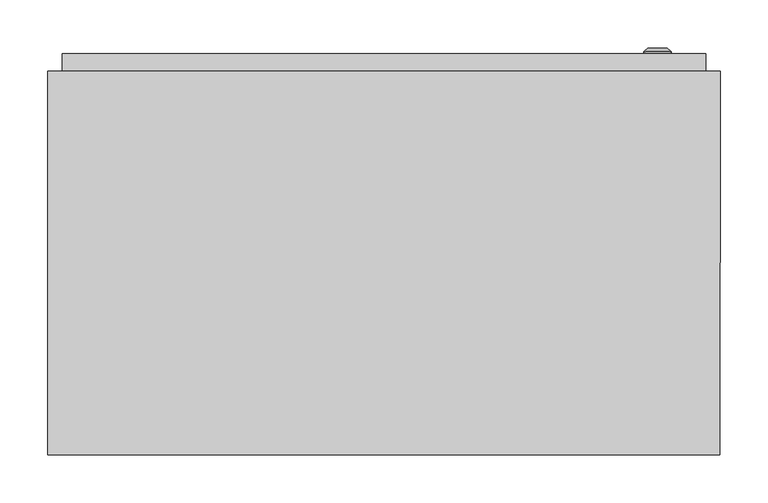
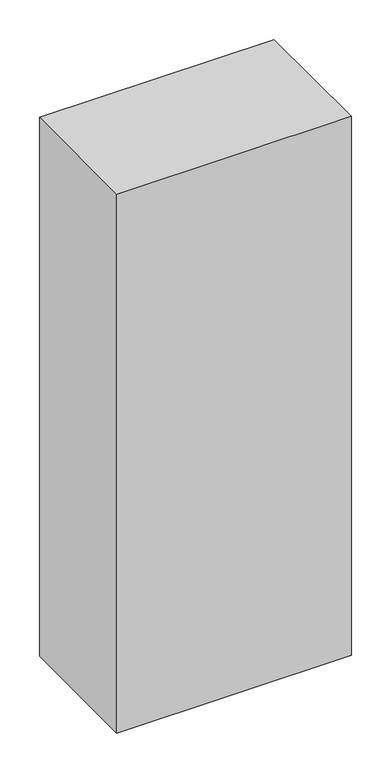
"""IFC4 building model written with IfcOpenShell, lengths in millimetres: proxy geometry, ШРС_IP54 : ШРС-3_1700х700х400_IP54."""

import ifcopenshell
import ifcopenshell.guid

model = None  # the IFC model being written
_history = None  # IfcOwnerHistory: only IFC2X3 demands one
_inside = {}  # id of a spatial element -> (the spatial element, [elements in it])
_under = {}  # id of a project, library or spatial element -> (it, [spatial elements below it])
_declared = {}  # id of a project -> (the project, [libraries it declares])
_typed = {}  # id of a type object -> (the type object, [elements of that type])
_made_of = {}  # id of a material, layer set ... -> (it, [elements and type objects made of it])


def new_model(schema):
    """Start an empty IFC model of exactly this schema.

    Asked for "IFC4X3", IfcOpenShell would pick the latest addendum, in which some entities
    have other attributes; the version numbers below select the first issue.
    IFC2X3 requires an IfcOwnerHistory on every rooted entity: one is made here for all.
    """
    global model, _history
    if schema == "IFC4X3":
        model = ifcopenshell.file(schema_version=(4, 3, 0, 0))
    else:
        model = ifcopenshell.file(schema=schema)
    _inside.clear()
    _under.clear()
    _declared.clear()
    _typed.clear()
    _made_of.clear()
    _history = None
    if model.schema == "IFC2X3":
        org = make("IfcOrganization", Name="unknown")
        user = make(
            "IfcPersonAndOrganization",
            ThePerson=make("IfcPerson", FamilyName="unknown"),
            TheOrganization=org,
        )
        app = make(
            "IfcApplication",
            ApplicationDeveloper=org,
            Version="unknown",
            ApplicationFullName="unknown",
            ApplicationIdentifier="unknown",
        )
        _history = make(
            "IfcOwnerHistory",
            OwningUser=user,
            OwningApplication=app,
            ChangeAction="ADDED",
            CreationDate=0,
        )
    return model


def make(cls, **values):
    """One entity of the class cls with the attributes given. An attribute that is None is left unset."""
    return model.create_entity(
        cls, **{name: value for name, value in values.items() if value is not None}
    )


def rooted(cls, **values):
    """An entity with a GlobalId (a new one), such as an element, a storey or a relation."""
    return make(cls, GlobalId=ifcopenshell.guid.new(), OwnerHistory=_history, **values)


def si_unit(unit_type, name, prefix=None):
    """IfcSIUnit, for example si_unit("LENGTHUNIT", "METRE", prefix="MILLI")."""
    return make("IfcSIUnit", UnitType=unit_type, Prefix=prefix, Name=name)


def assignment(units):
    """IfcUnitAssignment: the units of a project."""
    return None if units is None else make("IfcUnitAssignment", Units=units)


def point(xyz):
    """IfcCartesianPoint."""
    return None if xyz is None else make("IfcCartesianPoint", Coordinates=xyz)


def direction(xyz):
    """IfcDirection."""
    return None if xyz is None else make("IfcDirection", DirectionRatios=xyz)


def frame(location, z_axis=None, x_axis=None):
    """IfcAxis2Placement3D, a coordinate frame: its origin and axes. An axis left out is left unset."""
    return make(
        "IfcAxis2Placement3D",
        Location=point(location),
        Axis=direction(z_axis),
        RefDirection=direction(x_axis),
    )


def origin():
    """The frame at (0, 0, 0) with its axes left unset."""
    return frame((0.0, 0.0, 0.0))


def place(relative_to, where):
    """IfcLocalPlacement: puts the frame where relative to a parent placement (None: the world)."""
    return make(
        "IfcLocalPlacement", PlacementRelTo=relative_to, RelativePlacement=where
    )


def context(
    kind, dimensions, precision=None, world=None, true_north=None, identifier=None
):
    """IfcGeometricRepresentationContext, for example the 3D "Model" context."""
    return make(
        "IfcGeometricRepresentationContext",
        ContextIdentifier=identifier,
        ContextType=kind,
        CoordinateSpaceDimension=dimensions,
        Precision=precision,
        WorldCoordinateSystem=world,
        TrueNorth=true_north,
    )


def project(units=None, contexts=None):
    """IfcProject with its units and contexts."""
    return rooted(
        "IfcProject",
        Name="project",
        RepresentationContexts=contexts,
        UnitsInContext=assignment(units),
    )


def spatial(cls, under=None, at=None, **own):
    """A site, building, storey or space (cls), placed at a placement, below another one or the project."""
    s = rooted(cls, ObjectPlacement=at, **own)
    if under is not None:
        _under.setdefault(under.id(), (under, []))[1].append(s)
    return s


def polyline(points):
    """IfcPolyline through the points."""
    return make("IfcPolyline", Points=[point(p) for p in points])


def circle_curve(where, radius):
    """IfcCircle in the frame where."""
    return make("IfcCircle", Position=where, Radius=radius)


def outline(outer, holes=None, kind="AREA"):
    """IfcArbitraryClosedProfileDef: a profile drawn as a closed curve; with holes, ...WithVoids."""
    if holes is None:
        return make("IfcArbitraryClosedProfileDef", ProfileType=kind, OuterCurve=outer)
    return make(
        "IfcArbitraryProfileDefWithVoids",
        ProfileType=kind,
        OuterCurve=outer,
        InnerCurves=holes,
    )


def extrude(swept, where, along, depth):
    """IfcExtrudedAreaSolid: the profile swept, set in the frame where, extruded along a direction by depth."""
    return make(
        "IfcExtrudedAreaSolid",
        SweptArea=swept,
        Position=where,
        ExtrudedDirection=direction(along),
        Depth=depth,
    )


def faces_of(points, faces, orient=None, outer=None):
    """IfcFace entities. A face is a list of loops; a loop is a list of indices into points, from 0.

    orient and outer hold one flag for each loop. By default every Orientation is true, the
    first loop of a face is its IfcFaceOuterBound and the others are IfcFaceBound.
    """
    made = []
    for i, loops in enumerate(faces):
        bounds = []
        for j, loop in enumerate(loops):
            is_outer = j == 0 if outer is None else outer[i][j]
            bounds.append(
                make(
                    "IfcFaceOuterBound" if is_outer else "IfcFaceBound",
                    Bound=make("IfcPolyLoop", Polygon=[points[k] for k in loop]),
                    Orientation=True if orient is None else orient[i][j],
                )
            )
        made.append(make("IfcFace", Bounds=bounds))
    return made


def faceted_brep(points, faces, orient=None, outer=None, voids=None):
    """IfcFacetedBrep: a solid bounded by flat faces; with voids (closed shells), ...WithVoids."""
    shared = [point(p) for p in points]
    hull = make("IfcClosedShell", CfsFaces=faces_of(shared, faces, orient, outer))
    if voids is None:
        return make("IfcFacetedBrep", Outer=hull)
    return make(
        "IfcFacetedBrepWithVoids",
        Outer=hull,
        Voids=[
            make(cls, CfsFaces=faces_of(shared, fs, o, b)) for cls, fs, o, b in voids
        ],
    )


def shape(context_of_items, identifier, shape_type, items):
    """IfcShapeRepresentation: the items that make up one representation, for example the "Body"."""
    return make(
        "IfcShapeRepresentation",
        ContextOfItems=context_of_items,
        RepresentationIdentifier=identifier,
        RepresentationType=shape_type,
        Items=items,
    )


def source(mapping_origin, context_of_items, identifier, shape_type, items):
    """IfcRepresentationMap: a shape defined once, which mapped items show again and again."""
    return make(
        "IfcRepresentationMap",
        MappingOrigin=mapping_origin,
        MappedRepresentation=shape(context_of_items, identifier, shape_type, items),
    )


def transform(
    local_origin,
    x_axis=None,
    y_axis=None,
    z_axis=None,
    scale=None,
    scale2=None,
    scale3=None,
    uniform=True,
):
    """IfcCartesianTransformationOperator3D, or its non-uniform kind. x_axis, y_axis, z_axis: its Axis1, 2, 3."""
    if uniform:
        return make(
            "IfcCartesianTransformationOperator3D",
            Axis1=direction(x_axis),
            Axis2=direction(y_axis),
            LocalOrigin=point(local_origin),
            Scale=scale,
            Axis3=direction(z_axis),
        )
    return make(
        "IfcCartesianTransformationOperator3DnonUniform",
        Axis1=direction(x_axis),
        Axis2=direction(y_axis),
        LocalOrigin=point(local_origin),
        Scale=scale,
        Axis3=direction(z_axis),
        Scale2=scale2,
        Scale3=scale3,
    )


def mapped(mapping_source, mapping_target):
    """IfcMappedItem: shows the shape of a source again, moved by a transform."""
    return make(
        "IfcMappedItem", MappingSource=mapping_source, MappingTarget=mapping_target
    )


def made_of(thing, what):
    """Note that an element or type object is made of a material, layer set ...; save() writes the relation."""
    if what is not None:
        _made_of.setdefault(what.id(), (what, []))[1].append(thing)
    return thing


def element(
    cls,
    number,
    at=None,
    inside=None,
    cuts=None,
    type_object=None,
    material=None,
    context=None,
    identifier="Body",
    shape_type=None,
    held_by="IfcProductDefinitionShape",
    body=None,
    shapes=None,
    **own,
):
    """One element of the class cls, such as IfcWall. Its Tag is "e" and its number.

    at: its placement. inside: the storey or other place that contains it. cuts: it is an
    opening in that element (IfcRelVoidsElement). A single representation is given by context,
    identifier, shape_type and body (its items); several are given by shapes. held_by: the class
    of the entity that holds the representations. save() writes the other relations.
    """
    e = rooted(cls, Tag="e%d" % number, ObjectPlacement=at, **own)
    if body is not None:
        shapes = [shape(context, identifier, shape_type, body)]
    if shapes is not None:
        e.Representation = make(held_by, Representations=shapes)
    if inside is not None:
        _inside.setdefault(inside.id(), (inside, []))[1].append(e)
    if cuts is not None:
        rooted(
            "IfcRelVoidsElement", RelatingBuildingElement=cuts, RelatedOpeningElement=e
        )
    if type_object is not None:
        _typed.setdefault(type_object.id(), (type_object, []))[1].append(e)
    return made_of(e, material)


def aggregate(whole, parts):
    """IfcRelAggregates: a whole, such as a stair, and the parts it consists of."""
    return rooted("IfcRelAggregates", RelatingObject=whole, RelatedObjects=parts)


def save(model, path):
    """Write the relations noted so far, then the file.

    IfcRelAggregates (storeys below a building ...), IfcRelContainedInSpatialStructure (elements
    in a storey), IfcRelDefinesByType, IfcRelAssociatesMaterial and IfcRelDeclares: one each for
    every whole, place, type object, material and project.
    """
    for whole, parts in _under.values():
        aggregate(whole, parts)
    for where, things in _inside.values():
        rooted(
            "IfcRelContainedInSpatialStructure",
            RelatedElements=things,
            RelatingStructure=where,
        )
    for kind, things in _typed.values():
        rooted("IfcRelDefinesByType", RelatedObjects=things, RelatingType=kind)
    for what, things in _made_of.values():
        rooted("IfcRelAssociatesMaterial", RelatedObjects=things, RelatingMaterial=what)
    for by, libraries in _declared.values():
        rooted("IfcRelDeclares", RelatingContext=by, RelatedDefinitions=libraries)
    model.write(path)


def plane_surface(at):
    """IfcPlane: the flat surface through the origin of the frame at, square to its z axis."""
    return make("IfcPlane", Position=at)


def cylinder_surface(at, radius):
    """IfcCylindricalSurface: all points at the distance radius from the z axis of the frame at."""
    return make("IfcCylindricalSurface", Position=at, Radius=radius)


def revolved_surface(curve, axis_point, axis_direction):
    """IfcSurfaceOfRevolution: the curve turned about the line through axis_point along axis_direction."""
    return make(
        "IfcSurfaceOfRevolution",
        SweptCurve=make("IfcArbitraryOpenProfileDef", ProfileType="CURVE", Curve=curve),
        AxisPosition=make("IfcAxis1Placement", Location=point(axis_point), Axis=direction(axis_direction)),
    )


def advanced_brep(points, edges, surfaces, faces):
    """IfcAdvancedBrep: a solid bounded by faces that lie on surfaces and meet in shared edges.

    An edge is (start, end): straight between two places in points (the first is 0);
    or (start, end, curve); or (start, end, curve, False) where it runs against its curve.
    A face is (place in surfaces, loops), or (place, loops, False) where it looks against
    its surface's normal. A loop lists edges by number (the first is 1), with a minus sign
    where the edge is run from its end to its start. The first loop is the outer one.
    """
    corners = [point(p) for p in points]
    vertices = [make("IfcVertexPoint", VertexGeometry=c) for c in corners]
    made = []
    for start, end, *more in edges:
        made.append(
            make(
                "IfcEdgeCurve",
                EdgeStart=vertices[start],
                EdgeEnd=vertices[end],
                EdgeGeometry=more[0] if more else make("IfcPolyline", Points=[corners[start], corners[end]]),
                SameSense=more[1] if len(more) > 1 else True,
            )
        )
    hull = []
    for where, loops, *sense in faces:
        bounds = []
        for j, loop in enumerate(loops):
            ring = [make("IfcOrientedEdge", EdgeElement=made[abs(k) - 1], Orientation=k > 0) for k in loop]
            bounds.append(
                make(
                    "IfcFaceOuterBound" if j == 0 else "IfcFaceBound",
                    Bound=make("IfcEdgeLoop", EdgeList=ring),
                    Orientation=True,
                )
            )
        hull.append(make("IfcAdvancedFace", Bounds=bounds, FaceSurface=surfaces[where], SameSense=sense[0] if sense else True))
    return make("IfcAdvancedBrep", Outer=make("IfcClosedShell", CfsFaces=hull))


def electrical_equipment_bb6dac78(model_context):
    return source(origin(), model_context, "Body", "SolidModel", [
        advanced_brep(
        [(270.669873, 418.0, 320.0), (299.330127, 418.0, 320.0), (285.0, 418.0, 320.0), (270.669873, 420.366592, 320.0), (299.330127, 420.366592, 320.0), (275.0, 424.0, 320.0), (295.0, 424.0, 320.0), (283.1080471, 424.0, 320.0), (286.8919529, 424.0, 320.0), (283.1080471, 422.9822294, 320.0), (286.8919529, 422.9822294, 320.0), (285.0, 422.9822294, 320.0)],
        [
            (0, 1, circle_curve(frame((285.0, 418.0, 320.0), z_axis=(0.0, -1.0, 0.0), x_axis=(1.0, 0.0, 0.0)), 14.330127)),
            (1, 2),
            (2, 0),
            (1, 0, circle_curve(frame((285.0, 418.0, 320.0), z_axis=(0.0, -1.0, 0.0), x_axis=(1.0, 0.0, 0.0)), 14.330127)),
            (3, 4, circle_curve(frame((285.0, 420.366592, 320.0), z_axis=(0.0, -1.0, 0.0), x_axis=(1.0, 0.0, 0.0)), 14.330127)),
            (4, 1),
            (0, 3),
            (4, 3, circle_curve(frame((285.0, 420.366592, 320.0), z_axis=(0.0, -1.0, 0.0), x_axis=(1.0, 0.0, 0.0)), 14.330127)),
            (5, 6, circle_curve(frame((285.0, 424.0, 320.0), z_axis=(0.0, -1.0, 0.0), x_axis=(1.0, 0.0, 0.0)), 10.0)),
            (6, 4),
            (3, 5),
            (6, 5, circle_curve(frame((285.0, 424.0, 320.0), z_axis=(0.0, -1.0, 0.0), x_axis=(1.0, 0.0, 0.0)), 10.0)),
            (7, 8, circle_curve(frame((285.0, 424.0, 320.0), z_axis=(0.0, -1.0, 0.0), x_axis=(1.0, 0.0, 0.0)), 1.8919529)),
            (8, 6),
            (5, 7),
            (8, 7, circle_curve(frame((285.0, 424.0, 320.0), z_axis=(0.0, -1.0, 0.0), x_axis=(1.0, 0.0, 0.0)), 1.8919529)),
            (9, 10, circle_curve(frame((285.0, 422.9822294, 320.0), z_axis=(0.0, -1.0, 0.0), x_axis=(1.0, 0.0, 0.0)), 1.8919529)),
            (10, 8),
            (7, 9),
            (10, 9, circle_curve(frame((285.0, 422.9822294, 320.0), z_axis=(0.0, -1.0, 0.0), x_axis=(1.0, 0.0, 0.0)), 1.8919529)),
            (11, 10),
            (9, 11),
        ],
        [
            plane_surface(frame((285.0, 418.0, 320.0), z_axis=(0.0, -1.0, 0.0), x_axis=(1.0, 0.0, 0.0))),
            cylinder_surface(frame((285.0, 431.1348851, 320.0), z_axis=(0.0, 1.0, 0.0), x_axis=(1.0, 0.0, 0.0)), 14.330127),
            revolved_surface(polyline([(299.330127, 420.366592, 320.0), (295.0, 424.0, 320.0)]), (285.0, 431.1348851, 320.0), (0.0, 1.0, 0.0)),
            plane_surface(frame((285.0, 424.0, 320.0), z_axis=(0.0, 1.0, 0.0), x_axis=(1.0, 0.0, 0.0))),
            revolved_surface(polyline([(286.8919529, 424.0, 320.0), (286.8919529, 422.9822294, 320.0)]), (285.0, 431.1348851, 320.0), (0.0, 1.0, 0.0)),
            plane_surface(frame((285.0, 422.9822294, 320.0), z_axis=(0.0, 1.0, 0.0), x_axis=(1.0, 0.0, 0.0))),
        ],
        [
            (0, [[1, 2, 3]]),
            (0, [[4, -3, -2]]),
            (1, [[5, 6, -1, 7]]),
            (1, [[8, -7, -4, -6]]),
            (2, [[9, 10, -5, 11]]),
            (2, [[12, -11, -8, -10]]),
            (3, [[13, 14, -9, 15]]),
            (3, [[16, -15, -12, -14]]),
            (4, [[17, 18, -13, 19]]),
            (4, [[20, -19, -16, -18]]),
            (5, [[21, -17, 22]]),
            (5, [[-22, -20, -21]]),
        ],
    ),
        advanced_brep(
        [(270.669873, 418.0, 1285.0), (299.330127, 418.0, 1285.0), (285.0, 418.0, 1285.0), (270.669873, 420.366592, 1285.0), (299.330127, 420.366592, 1285.0), (275.0, 424.0, 1285.0), (295.0, 424.0, 1285.0), (283.1080471, 424.0, 1285.0), (286.8919529, 424.0, 1285.0), (283.1080471, 422.9822294, 1285.0), (286.8919529, 422.9822294, 1285.0), (285.0, 422.9822294, 1285.0)],
        [
            (0, 1, circle_curve(frame((285.0, 418.0, 1285.0), z_axis=(0.0, -1.0, 0.0), x_axis=(1.0, 0.0, 0.0)), 14.330127)),
            (1, 2),
            (2, 0),
            (1, 0, circle_curve(frame((285.0, 418.0, 1285.0), z_axis=(0.0, -1.0, 0.0), x_axis=(1.0, 0.0, 0.0)), 14.330127)),
            (3, 4, circle_curve(frame((285.0, 420.366592, 1285.0), z_axis=(0.0, -1.0, 0.0), x_axis=(1.0, 0.0, 0.0)), 14.330127)),
            (4, 1),
            (0, 3),
            (4, 3, circle_curve(frame((285.0, 420.366592, 1285.0), z_axis=(0.0, -1.0, 0.0), x_axis=(1.0, 0.0, 0.0)), 14.330127)),
            (5, 6, circle_curve(frame((285.0, 424.0, 1285.0), z_axis=(0.0, -1.0, 0.0), x_axis=(1.0, 0.0, 0.0)), 10.0)),
            (6, 4),
            (3, 5),
            (6, 5, circle_curve(frame((285.0, 424.0, 1285.0), z_axis=(0.0, -1.0, 0.0), x_axis=(1.0, 0.0, 0.0)), 10.0)),
            (7, 8, circle_curve(frame((285.0, 424.0, 1285.0), z_axis=(0.0, -1.0, 0.0), x_axis=(1.0, 0.0, 0.0)), 1.8919529)),
            (8, 6),
            (5, 7),
            (8, 7, circle_curve(frame((285.0, 424.0, 1285.0), z_axis=(0.0, -1.0, 0.0), x_axis=(1.0, 0.0, 0.0)), 1.8919529)),
            (9, 10, circle_curve(frame((285.0, 422.9822294, 1285.0), z_axis=(0.0, -1.0, 0.0), x_axis=(1.0, 0.0, 0.0)), 1.8919529)),
            (10, 8),
            (7, 9),
            (10, 9, circle_curve(frame((285.0, 422.9822294, 1285.0), z_axis=(0.0, -1.0, 0.0), x_axis=(1.0, 0.0, 0.0)), 1.8919529)),
            (11, 10),
            (9, 11),
        ],
        [
            plane_surface(frame((285.0, 418.0, 1285.0), z_axis=(0.0, -1.0, 0.0), x_axis=(1.0, 0.0, 0.0))),
            cylinder_surface(frame((285.0, 431.1348851, 1285.0), z_axis=(0.0, 1.0, 0.0), x_axis=(1.0, 0.0, 0.0)), 14.330127),
            revolved_surface(polyline([(299.330127, 420.366592, 1285.0), (295.0, 424.0, 1285.0)]), (285.0, 431.1348851, 1285.0), (0.0, 1.0, 0.0)),
            plane_surface(frame((285.0, 424.0, 1285.0), z_axis=(0.0, 1.0, 0.0), x_axis=(1.0, 0.0, 0.0))),
            revolved_surface(polyline([(286.8919529, 424.0, 1285.0), (286.8919529, 422.9822294, 1285.0)]), (285.0, 431.1348851, 1285.0), (0.0, 1.0, 0.0)),
            plane_surface(frame((285.0, 422.9822294, 1285.0), z_axis=(0.0, 1.0, 0.0), x_axis=(1.0, 0.0, 0.0))),
        ],
        [
            (0, [[1, 2, 3]]),
            (0, [[4, -3, -2]]),
            (1, [[5, 6, -1, 7]]),
            (1, [[8, -7, -4, -6]]),
            (2, [[9, 10, -5, 11]]),
            (2, [[12, -11, -8, -10]]),
            (3, [[13, 14, -9, 15]]),
            (3, [[16, -15, -12, -14]]),
            (4, [[17, 18, -13, 19]]),
            (4, [[20, -19, -16, -18]]),
            (5, [[21, -17, 22]]),
            (5, [[-22, -20, -21]]),
        ],
    ),
        faceted_brep([(-350.0, 400.0, 1700.0), (350.0067809, 400.0, 1700.0), (350.0067809, 400.0, 0.0), (-350.0, 400.0, 0.0), (315.8707865, 400.0, 93.3701084), (315.8707865, 400.0, 1592.9861595), (-313.3426966, 400.0, 1592.9861595), (-313.3426966, 400.0, 93.3701084), (-350.0, 0.0, 1700.0), (-350.0, 0.0, 0.0), (350.0, 0.0, 1700.0), (350.0, 0.0, 0.0), (-313.3426966, 10.0, 93.3701084), (315.8707865, 10.0, 93.3701084), (-313.3426966, 10.0, 1592.9861595), (315.8707865, 10.0, 1592.9861595)], [[[0, 1, 2, 3], [4, 5, 6, 7]], [[8, 0, 3, 9]], [[1, 10, 11, 2]], [[4, 7, 12, 13]], [[7, 6, 14, 12]], [[6, 5, 15, 14]], [[5, 4, 13, 15]], [[1, 0, 8, 10]], [[11, 10, 8, 9]], [[2, 11, 9, 3]], [[13, 12, 14, 15]]]),
        extrude(outline(polyline([(-305.8707865, 125.9831461), (-265.8707865, 125.9831461), (-265.8707865, 93.1179775), (-268.8707865, 93.1179775), (-268.8707865, 122.9831461), (-302.8707865, 122.9831461), (-302.8707865, 93.1179775), (-305.8707865, 93.1179775), (-305.8707865, 125.9831461)])), frame((0.0, 0.0, 189.6067416), z_axis=(0.0, 0.0, 1.0), x_axis=(1.0, 0.0, 0.0)), (0.0, 0.0, 1.0), 1445.3932584),
        extrude(outline(polyline([(265.8707865, 125.9831461), (305.8707865, 125.9831461), (305.8707865, 93.1179775), (302.8707865, 93.1179775), (302.8707865, 122.9831461), (268.8707865, 122.9831461), (268.8707865, 93.1179775), (265.8707865, 93.1179775), (265.8707865, 125.9831461)])), frame((0.0, 0.0, 189.6067416), z_axis=(0.0, 0.0, 1.0), x_axis=(1.0, 0.0, 0.0)), (0.0, 0.0, 1.0), 1445.3932584),
        extrude(outline(polyline([(-305.8707865, 10.0), (-315.8707865, 10.0), (-315.8707865, 380.0), (-305.8707865, 380.0), (-305.8707865, 10.0)])), frame((0.0, 0.0, 1545.5966059), z_axis=(0.0, 0.0, 1.0), x_axis=(1.0, 0.0, 0.0)), (0.0, 0.0, 1.0), 53.0898876),
        extrude(outline(polyline([(315.8707865, 10.0), (305.8707865, 10.0), (305.8707865, 380.0), (315.8707865, 380.0), (315.8707865, 10.0)])), frame((0.0, 0.0, 1545.5966059), z_axis=(0.0, 0.0, 1.0), x_axis=(1.0, 0.0, 0.0)), (0.0, 0.0, 1.0), 53.0898876),
        extrude(outline(polyline([(-305.8707865, 10.0), (-315.8707865, 10.0), (-315.8707865, 380.0), (-305.8707865, 380.0), (-305.8707865, 10.0)])), frame((0.0, 0.0, 260.5966059), z_axis=(0.0, 0.0, 1.0), x_axis=(1.0, 0.0, 0.0)), (0.0, 0.0, 1.0), 53.0898876),
        extrude(outline(polyline([(315.8707865, 10.0), (305.8707865, 10.0), (305.8707865, 380.0), (315.8707865, 380.0), (315.8707865, 10.0)])), frame((0.0, 0.0, 260.5966059), z_axis=(0.0, 0.0, 1.0), x_axis=(1.0, 0.0, 0.0)), (0.0, 0.0, 1.0), 53.0898876),
        extrude(outline(polyline([(-305.8707865, 10.0), (-315.8707865, 10.0), (-315.8707865, 380.0), (-305.8707865, 380.0), (-305.8707865, 10.0)])), frame((0.0, 0.0, 785.5966059), z_axis=(0.0, 0.0, 1.0), x_axis=(1.0, 0.0, 0.0)), (0.0, 0.0, 1.0), 53.0898876),
        extrude(outline(polyline([(315.8707865, 10.0), (305.8707865, 10.0), (305.8707865, 380.0), (315.8707865, 380.0), (315.8707865, 10.0)])), frame((0.0, 0.0, 785.5966059), z_axis=(0.0, 0.0, 1.0), x_axis=(1.0, 0.0, 0.0)), (0.0, 0.0, 1.0), 53.0898876),
        extrude(outline(polyline([(335.0, 400.0), (-335.0, 400.0), (-335.0, 418.0), (335.0, 418.0), (335.0, 400.0)])), frame((0.0, 0.0, 65.0187804), z_axis=(0.0, 0.0, 1.0), x_axis=(1.0, 0.0, 0.0)), (0.0, 0.0, 1.0), 1569.9812196),
    ])


if __name__ == "__main__":
    model = new_model("IFC4")
    model_context = context("Model", 3, world=origin())
    ifc_project = project(units=[si_unit("LENGTHUNIT", "METRE", prefix="MILLI")], contexts=[model_context])
    site = spatial("IfcSite", under=ifc_project)
    building = spatial("IfcBuilding", under=site)
    placement = place(None, origin())
    electrical_equipment_shape = electrical_equipment_bb6dac78(model_context)
    element("IfcBuildingElementProxy", 1, Name="ШРС_IP54 : ШРС-3_1700х700х400_IP54", ObjectType="ШРС_IP54 : ШРС-3_1700х700х400_IP54", at=placement, inside=building, context=model_context, shape_type="MappedRepresentation", body=[
        mapped(electrical_equipment_shape, transform((0.0, 0.0, 0.0), x_axis=(1.0, 0.0, 0.0), y_axis=(0.0, 1.0, 0.0), z_axis=(0.0, 0.0, 1.0))),
    ])
    save(model, "model.ifc")
